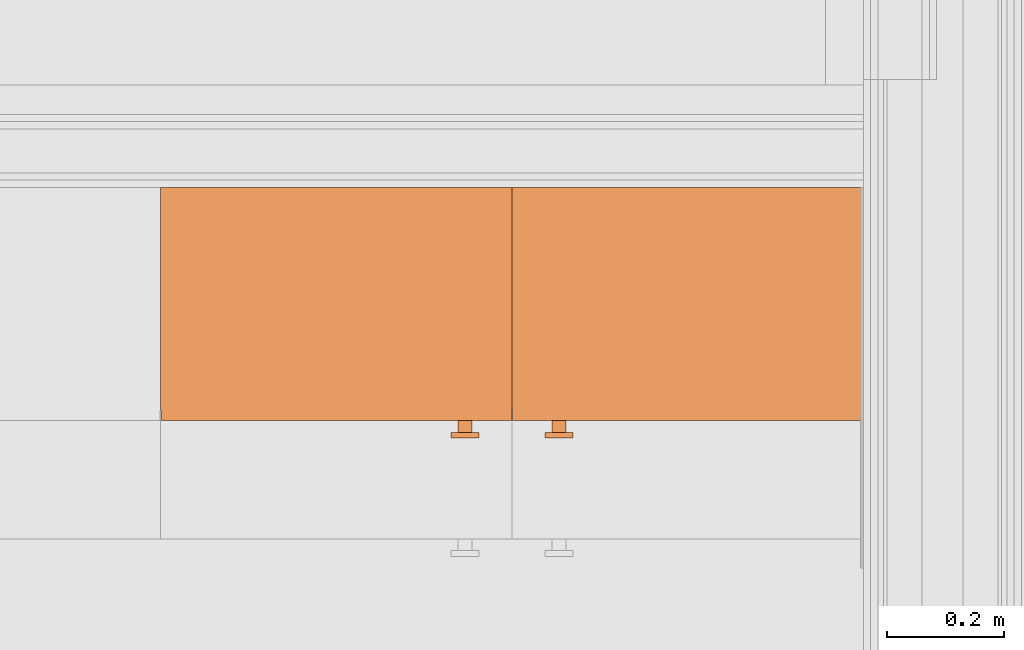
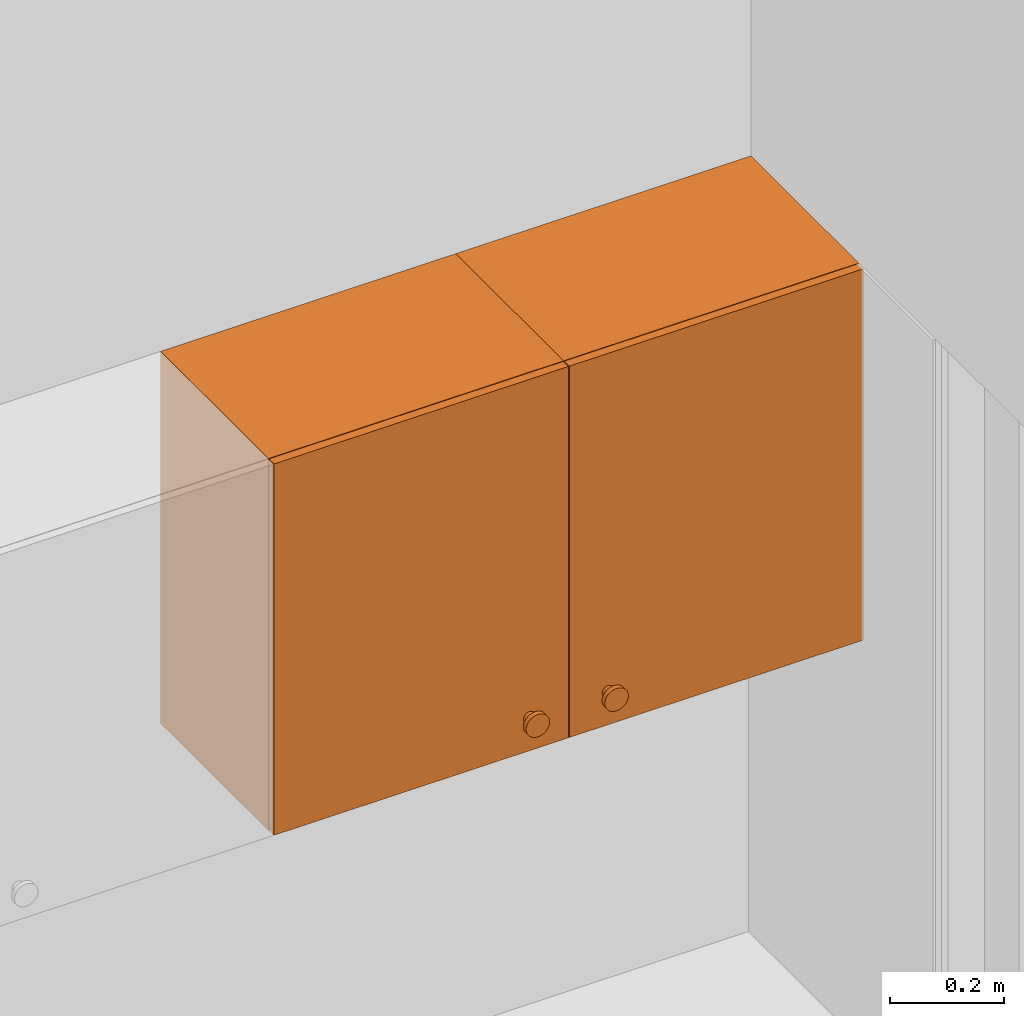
# One storey, part 133 of 165: 2 proxies.
"""IFC2X3 building model written with IfcOpenShell, lengths in millimetres."""

from ifc_helpers import new_model, entity, si_unit, converted_unit, derived_unit, money_unit, direction, frame, origin_with_axes, place, context, subcontext, project, spatial, faceted_brep, source, transform, mapped, type_object, type_shapes, element, save


model = new_model("IFC2X3")

# Units and contexts
model_context = context("Model", 3, precision=0.01, world=origin_with_axes(), true_north=direction((0.0, 1.0)))
body_context = subcontext(model_context, "Body", "Model", "MODEL_VIEW")
ifc_project = project(units=[si_unit("LENGTHUNIT", "METRE", prefix="MILLI"), si_unit("AREAUNIT", "SQUARE_METRE"), si_unit("VOLUMEUNIT", "CUBIC_METRE"), converted_unit("PLANEANGLEUNIT", "DEGREE", entity("IfcPlaneAngleMeasure", 0.0174532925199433), si_unit("PLANEANGLEUNIT", "RADIAN"), dimensions=[0, 0, 0, 0, 0, 0, 0]), money_unit("EUR"), converted_unit("TIMEUNIT", "Year", entity("IfcTimeMeasure", 31556926.0), si_unit("TIMEUNIT", "SECOND"), dimensions=[0, 0, 1, 0, 0, 0, 0]), si_unit("MASSUNIT", "GRAM", prefix="KILO"), si_unit("THERMODYNAMICTEMPERATUREUNIT", "DEGREE_CELSIUS"), si_unit("LUMINOUSINTENSITYUNIT", "LUMEN"), si_unit("ENERGYUNIT", "JOULE", prefix="MEGA"), derived_unit("THERMALCONDUCTANCEUNIT", [(si_unit("POWERUNIT", "WATT"), 1), (si_unit("LENGTHUNIT", "METRE"), -1), (si_unit("THERMODYNAMICTEMPERATUREUNIT", "KELVIN"), -1)]), derived_unit("SPECIFICHEATCAPACITYUNIT", [(si_unit("ENERGYUNIT", "JOULE"), 1), (si_unit("MASSUNIT", "GRAM", prefix="KILO"), -1), (si_unit("THERMODYNAMICTEMPERATUREUNIT", "KELVIN"), -1)]), derived_unit("MASSDENSITYUNIT", [(si_unit("MASSUNIT", "GRAM", prefix="KILO"), 1), (si_unit("VOLUMEUNIT", "CUBIC_METRE"), -1)])], contexts=[model_context])

# Site, building, storey
site_placement = place(None, origin_with_axes())
site = spatial("IfcSite", under=ifc_project, at=site_placement, Name="Site", CompositionType="ELEMENT")
building_placement = place(site_placement, origin_with_axes())
building = spatial("IfcBuilding", under=site, at=building_placement, Name="Naam gebouw", CompositionType="ELEMENT")
storey_placement = place(building_placement, origin_with_axes())
storey = spatial("IfcBuildingStorey", under=building, at=storey_placement, Name="Begane grond", CompositionType="ELEMENT", Elevation=0.0)

# Proxies
building_element_proxy_type = type_object("IfcBuildingElementProxyType", Name="Bovenkast recht 26", PredefinedType="NOTDEFINED")
shared_shape_1 = source(origin_with_axes(), body_context, "Body", "Brep", [
    faceted_brep([(18.0, -380.0, 1891.0), (582.0, -380.0, 1891.0), (582.0, -380.0, 1909.0), (18.0, -380.0, 1909.0), (18.0, -18.0, 1891.0), (582.0, -18.0, 1891.0), (582.0, -18.0, 1909.0), (18.0, -18.0, 1909.0)], [[[0, 1, 2, 3]], [[0, 4, 5, 1]], [[1, 5, 6, 2]], [[3, 2, 6, 7]], [[4, 0, 3, 7]], [[5, 4, 7, 6]]]),
    faceted_brep([(531.8176930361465, -398.0, 1570.916221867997), (531.2763114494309, -398.0, 1568.895758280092), (530.3923048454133, -398.0, 1567.0), (529.1925333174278, -398.0, 1565.286548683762), (527.7134513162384, -398.0, 1563.807466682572), (526.0, -398.0, 1562.607695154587), (524.104241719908, -398.0, 1561.723688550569), (522.0837781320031, -398.0, 1561.182306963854), (520.0, -398.0, 1561.0), (517.9162218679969, -398.0, 1561.182306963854), (515.8957582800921, -398.0, 1561.723688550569), (514.0, -398.0, 1562.607695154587), (512.2865486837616, -398.0, 1563.807466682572), (510.8074666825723, -398.0, 1565.286548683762), (509.6076951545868, -398.0, 1567.0), (508.7236885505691, -398.0, 1568.895758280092), (508.1823069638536, -398.0, 1570.916221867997), (508.0, -398.0, 1573.0), (508.1823069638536, -398.0, 1575.083778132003), (508.7236885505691, -398.0, 1577.104241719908), (509.6076951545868, -398.0, 1579.0), (510.8074666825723, -398.0, 1580.713451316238), (512.2865486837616, -398.0, 1582.192533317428), (514.0, -398.0, 1583.392304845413), (515.8957582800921, -398.0, 1584.276311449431), (517.9162218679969, -398.0, 1584.817693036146), (520.0, -398.0, 1585.0), (522.0837781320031, -398.0, 1584.817693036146), (524.104241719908, -398.0, 1584.276311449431), (526.0, -398.0, 1583.392304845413), (527.7134513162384, -398.0, 1582.192533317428), (529.1925333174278, -398.0, 1580.713451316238), (530.3923048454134, -398.0, 1579.0), (531.2763114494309, -398.0, 1577.104241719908), (531.8176930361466, -398.0, 1575.083778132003), (532.0, -398.0, 1573.0), (531.8176930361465, -418.0000000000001, 1570.916221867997), (531.2763114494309, -418.0000000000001, 1568.895758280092), (530.3923048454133, -418.0000000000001, 1567.0), (529.1925333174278, -418.0000000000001, 1565.286548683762), (527.7134513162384, -418.0000000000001, 1563.807466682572), (526.0, -418.0000000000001, 1562.607695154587), (524.104241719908, -418.0000000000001, 1561.723688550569), (522.0837781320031, -418.0000000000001, 1561.182306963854), (520.0, -418.0000000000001, 1561.0), (517.9162218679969, -418.0000000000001, 1561.182306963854), (515.8957582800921, -418.0000000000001, 1561.723688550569), (514.0, -418.0000000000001, 1562.607695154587), (512.2865486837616, -418.0000000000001, 1563.807466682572), (510.8074666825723, -418.0000000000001, 1565.286548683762), (509.6076951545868, -418.0000000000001, 1567.0), (508.7236885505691, -418.0000000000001, 1568.895758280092), (508.1823069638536, -418.0000000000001, 1570.916221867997), (508.0, -418.0000000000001, 1573.0), (508.1823069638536, -418.0000000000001, 1575.083778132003), (508.7236885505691, -418.0000000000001, 1577.104241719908), (509.6076951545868, -418.0000000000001, 1579.0), (510.8074666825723, -418.0000000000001, 1580.713451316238), (512.2865486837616, -418.0000000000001, 1582.192533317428), (514.0, -418.0000000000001, 1583.392304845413), (515.8957582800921, -418.0000000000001, 1584.276311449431), (517.9162218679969, -418.0000000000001, 1584.817693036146), (520.0, -418.0000000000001, 1585.0), (522.0837781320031, -418.0000000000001, 1584.817693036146), (524.104241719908, -418.0000000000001, 1584.276311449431), (526.0, -418.0000000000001, 1583.392304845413), (527.7134513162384, -418.0000000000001, 1582.192533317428), (529.1925333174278, -418.0000000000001, 1580.713451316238), (530.3923048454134, -418.0000000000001, 1579.0), (531.2763114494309, -418.0000000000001, 1577.104241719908), (531.8176930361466, -418.0000000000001, 1575.083778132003), (532.0, -418.0000000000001, 1573.0)], [[[0, 1, 2, 3, 4, 5, 6, 7, 8, 9, 10, 11, 12, 13, 14, 15, 16, 17, 18, 19, 20, 21, 22, 23, 24, 25, 26, 27, 28, 29, 30, 31, 32, 33, 34, 35]], [[1, 0, 36, 37]], [[2, 1, 37, 38]], [[3, 2, 38, 39]], [[4, 3, 39, 40]], [[5, 4, 40, 41]], [[6, 5, 41, 42]], [[7, 6, 42, 43]], [[8, 7, 43, 44]], [[9, 8, 44, 45]], [[10, 9, 45, 46]], [[11, 10, 46, 47]], [[12, 11, 47, 48]], [[13, 12, 48, 49]], [[14, 13, 49, 50]], [[15, 14, 50, 51]], [[16, 15, 51, 52]], [[17, 16, 52, 53]], [[18, 17, 53, 54]], [[19, 18, 54, 55]], [[20, 19, 55, 56]], [[21, 20, 56, 57]], [[22, 21, 57, 58]], [[23, 22, 58, 59]], [[24, 23, 59, 60]], [[25, 24, 60, 61]], [[26, 25, 61, 62]], [[27, 26, 62, 63]], [[28, 27, 63, 64]], [[29, 28, 64, 65]], [[30, 29, 65, 66]], [[31, 30, 66, 67]], [[32, 31, 67, 68]], [[33, 32, 68, 69]], [[34, 33, 69, 70]], [[35, 34, 70, 71]], [[0, 35, 71, 36]], [[36, 71, 70, 69, 68, 67, 66, 65, 64, 63, 62, 61, 60, 59, 58, 57, 56, 55, 54, 53, 52, 51, 50, 49, 48, 47, 46, 45, 44, 43, 42, 41, 40, 39, 38, 37]]]),
    faceted_brep([(543.635386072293, -418.0000000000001, 1568.832443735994), (542.5526228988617, -418.0000000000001, 1564.791516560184), (540.7846096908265, -418.0000000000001, 1561.0), (538.3850666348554, -418.0000000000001, 1557.573097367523), (535.426902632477, -418.0000000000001, 1554.614933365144), (532.0, -418.0000000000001, 1552.215390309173), (528.2084834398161, -418.0000000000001, 1550.447377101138), (524.1675562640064, -418.0000000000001, 1549.364613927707), (520.0, -418.0000000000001, 1549.0), (515.8324437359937, -418.0000000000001, 1549.364613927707), (511.7915165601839, -418.0000000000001, 1550.447377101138), (508.0, -418.0000000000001, 1552.215390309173), (504.5730973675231, -418.0000000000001, 1554.614933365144), (501.6149333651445, -418.0000000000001, 1557.573097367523), (499.2153903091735, -418.0000000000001, 1561.0), (497.4473771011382, -418.0000000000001, 1564.791516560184), (496.364613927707, -418.0000000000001, 1568.832443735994), (496.0000000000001, -418.0000000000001, 1573.0), (496.364613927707, -418.0000000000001, 1577.167556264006), (497.4473771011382, -418.0000000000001, 1581.208483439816), (499.2153903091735, -418.0000000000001, 1585.0), (501.6149333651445, -418.0000000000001, 1588.426902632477), (504.5730973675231, -418.0000000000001, 1591.385066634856), (508.0, -418.0000000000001, 1593.784609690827), (511.7915165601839, -418.0000000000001, 1595.552622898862), (515.8324437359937, -418.0000000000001, 1596.635386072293), (520.0, -418.0000000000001, 1597.0), (524.1675562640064, -418.0000000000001, 1596.635386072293), (528.2084834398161, -418.0000000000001, 1595.552622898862), (532.0, -418.0000000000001, 1593.784609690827), (535.426902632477, -418.0000000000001, 1591.385066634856), (538.3850666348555, -418.0000000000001, 1588.426902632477), (540.7846096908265, -418.0000000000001, 1585.0), (542.5526228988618, -418.0000000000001, 1581.208483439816), (543.635386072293, -418.0000000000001, 1577.167556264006), (544.0, -418.0000000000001, 1573.0), (543.635386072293, -428.0000000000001, 1568.832443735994), (542.5526228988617, -428.0000000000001, 1564.791516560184), (540.7846096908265, -428.0000000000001, 1561.0), (538.3850666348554, -428.0000000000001, 1557.573097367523), (535.426902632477, -428.0000000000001, 1554.614933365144), (532.0, -428.0000000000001, 1552.215390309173), (528.2084834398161, -428.0000000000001, 1550.447377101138), (524.1675562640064, -428.0000000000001, 1549.364613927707), (520.0, -428.0000000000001, 1549.0), (515.8324437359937, -428.0000000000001, 1549.364613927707), (511.7915165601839, -428.0000000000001, 1550.447377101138), (508.0, -428.0000000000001, 1552.215390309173), (504.5730973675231, -428.0000000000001, 1554.614933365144), (501.6149333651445, -428.0000000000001, 1557.573097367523), (499.2153903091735, -428.0000000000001, 1561.0), (497.4473771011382, -428.0000000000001, 1564.791516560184), (496.364613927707, -428.0000000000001, 1568.832443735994), (496.0000000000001, -428.0000000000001, 1573.0), (496.364613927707, -428.0000000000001, 1577.167556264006), (497.4473771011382, -428.0000000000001, 1581.208483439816), (499.2153903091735, -428.0000000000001, 1585.0), (501.6149333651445, -428.0000000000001, 1588.426902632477), (504.5730973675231, -428.0000000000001, 1591.385066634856), (508.0, -428.0000000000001, 1593.784609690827), (511.7915165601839, -428.0000000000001, 1595.552622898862), (515.8324437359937, -428.0000000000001, 1596.635386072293), (520.0, -428.0000000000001, 1597.0), (524.1675562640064, -428.0000000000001, 1596.635386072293), (528.2084834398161, -428.0000000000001, 1595.552622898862), (532.0, -428.0000000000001, 1593.784609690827), (535.426902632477, -428.0000000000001, 1591.385066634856), (538.3850666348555, -428.0000000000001, 1588.426902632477), (540.7846096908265, -428.0000000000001, 1585.0), (542.5526228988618, -428.0000000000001, 1581.208483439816), (543.635386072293, -428.0000000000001, 1577.167556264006), (544.0, -428.0000000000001, 1573.0)], [[[0, 1, 2, 3, 4, 5, 6, 7, 8, 9, 10, 11, 12, 13, 14, 15, 16, 17, 18, 19, 20, 21, 22, 23, 24, 25, 26, 27, 28, 29, 30, 31, 32, 33, 34, 35]], [[1, 0, 36, 37]], [[2, 1, 37, 38]], [[3, 2, 38, 39]], [[4, 3, 39, 40]], [[5, 4, 40, 41]], [[6, 5, 41, 42]], [[7, 6, 42, 43]], [[8, 7, 43, 44]], [[9, 8, 44, 45]], [[10, 9, 45, 46]], [[11, 10, 46, 47]], [[12, 11, 47, 48]], [[13, 12, 48, 49]], [[14, 13, 49, 50]], [[15, 14, 50, 51]], [[16, 15, 51, 52]], [[17, 16, 52, 53]], [[18, 17, 53, 54]], [[19, 18, 54, 55]], [[20, 19, 55, 56]], [[21, 20, 56, 57]], [[22, 21, 57, 58]], [[23, 22, 58, 59]], [[24, 23, 59, 60]], [[25, 24, 60, 61]], [[26, 25, 61, 62]], [[27, 26, 62, 63]], [[28, 27, 63, 64]], [[29, 28, 64, 65]], [[30, 29, 65, 66]], [[31, 30, 66, 67]], [[32, 31, 67, 68]], [[33, 32, 68, 69]], [[34, 33, 69, 70]], [[35, 34, 70, 71]], [[0, 35, 71, 36]], [[36, 71, 70, 69, 68, 67, 66, 65, 64, 63, 62, 61, 60, 59, 58, 57, 56, 55, 54, 53, 52, 51, 50, 49, 48, 47, 46, 45, 44, 43, 42, 41, 40, 39, 38, 37]]]),
    faceted_brep([(1.0, -380.0, 1501.0), (599.0, -380.0, 1501.0), (599.0, -398.0, 1501.0), (1.0, -398.0, 1501.0), (1.0, -379.9999999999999, 2299.0), (599.0, -379.9999999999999, 2299.0), (599.0, -397.9999999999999, 2299.0), (1.0, -397.9999999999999, 2299.0)], [[[0, 1, 2, 3]], [[0, 4, 5, 1]], [[1, 5, 6, 2]], [[3, 2, 6, 7]], [[4, 0, 3, 7]], [[5, 4, 7, 6]]]),
    faceted_brep([(18.0, -380.0, 1500.0), (582.0, -380.0, 1500.0), (582.0, -380.0, 1518.0), (18.0, -380.0, 1518.0), (18.0, 0.0, 1500.0), (582.0, 0.0, 1500.0), (582.0, 0.0, 1518.0), (18.0, 0.0, 1518.0)], [[[0, 1, 2, 3]], [[0, 4, 5, 1]], [[1, 5, 6, 2]], [[3, 2, 6, 7]], [[4, 0, 3, 7]], [[5, 4, 7, 6]]]),
    faceted_brep([(18.0, -380.0, 2282.0), (582.0, -380.0, 2282.0), (582.0, -380.0, 2300.0), (18.0, -380.0, 2300.0), (18.0, 0.0, 2282.0), (582.0, 0.0, 2282.0), (582.0, 0.0, 2300.0), (18.0, 0.0, 2300.0)], [[[0, 1, 2, 3]], [[0, 4, 5, 1]], [[1, 5, 6, 2]], [[3, 2, 6, 7]], [[4, 0, 3, 7]], [[5, 4, 7, 6]]]),
    faceted_brep([(0.0, 0.0, 1500.0), (0.0, -380.0, 1500.0), (0.0, -380.0, 2300.0), (0.0, 0.0, 2300.0), (18.0, 0.0, 1500.0), (18.0, -380.0, 1500.0), (18.0, -380.0, 2300.0), (18.0, 0.0, 2300.0)], [[[0, 1, 2, 3]], [[0, 4, 5, 1]], [[1, 5, 6, 2]], [[3, 2, 6, 7]], [[4, 0, 3, 7]], [[5, 4, 7, 6]]]),
    faceted_brep([(600.0, -380.0, 1500.0), (600.0, 0.0, 1500.0), (600.0, 0.0, 2300.0), (600.0, -380.0, 2300.0), (582.0, -380.0, 1500.0), (582.0, 0.0, 1500.0), (582.0, 0.0, 2300.0), (582.0, -380.0, 2300.0)], [[[0, 1, 2, 3]], [[0, 4, 5, 1]], [[1, 5, 6, 2]], [[3, 2, 6, 7]], [[4, 0, 3, 7]], [[5, 4, 7, 6]]]),
    faceted_brep([(582.0, -9.0, 1518.0), (18.00000000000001, -9.0, 1518.0), (18.00000000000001, -9.0, 2282.0), (582.0, -9.0, 2282.0), (582.0, -18.0, 1518.0), (18.00000000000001, -18.0, 1518.0), (18.00000000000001, -18.0, 2282.0), (582.0, -18.0, 2282.0)], [[[0, 1, 2, 3]], [[0, 4, 5, 1]], [[1, 5, 6, 2]], [[3, 2, 6, 7]], [[4, 0, 3, 7]], [[5, 4, 7, 6]]]),
])
proxy_1_placement = place(storey_placement, frame((23164.99903999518, 13104.99770206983, 300.0000000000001), z_axis=(0.0, 0.0, 1.0), x_axis=(1.0, 0.0, 0.0)))
element("IfcBuildingElementProxy", 1, at=proxy_1_placement, inside=storey, type_object=building_element_proxy_type, Name="_Leeg", context=body_context, shape_type="MappedRepresentation", body=[
    mapped(shared_shape_1, transform((0.0, 0.0, 0.0))),
])
shared_shape_2 = source(origin_with_axes(), body_context, "Body", "Brep", [
    faceted_brep([(-18.0, -380.0, 1891.0), (-18.0, -380.0, 1909.0), (-582.0, -380.0, 1909.0), (-582.0, -380.0, 1891.0), (-18.0, -18.0, 1891.0), (-18.0, -18.0, 1909.0), (-582.0, -18.0, 1909.0), (-582.0, -18.0, 1891.0)], [[[0, 1, 2, 3]], [[4, 5, 1, 0]], [[1, 5, 6, 2]], [[3, 2, 6, 7]], [[0, 3, 7, 4]], [[7, 6, 5, 4]]]),
    faceted_brep([(-531.8176930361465, -398.0, 1570.916221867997), (-532.0, -398.0, 1573.0), (-531.8176930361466, -398.0, 1575.083778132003), (-531.2763114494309, -398.0, 1577.104241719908), (-530.3923048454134, -398.0, 1579.0), (-529.1925333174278, -398.0, 1580.713451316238), (-527.7134513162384, -398.0, 1582.192533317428), (-526.0, -398.0, 1583.392304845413), (-524.104241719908, -398.0, 1584.276311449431), (-522.0837781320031, -398.0, 1584.817693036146), (-520.0, -398.0, 1585.0), (-517.9162218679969, -398.0, 1584.817693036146), (-515.8957582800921, -398.0, 1584.276311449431), (-514.0, -398.0, 1583.392304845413), (-512.2865486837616, -398.0, 1582.192533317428), (-510.8074666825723, -398.0, 1580.713451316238), (-509.6076951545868, -398.0, 1579.0), (-508.7236885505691, -398.0, 1577.104241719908), (-508.1823069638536, -398.0, 1575.083778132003), (-508.0, -398.0, 1573.0), (-508.1823069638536, -398.0, 1570.916221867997), (-508.7236885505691, -398.0, 1568.895758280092), (-509.6076951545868, -398.0, 1567.0), (-510.8074666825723, -398.0, 1565.286548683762), (-512.2865486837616, -398.0, 1563.807466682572), (-514.0, -398.0, 1562.607695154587), (-515.8957582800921, -398.0, 1561.723688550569), (-517.9162218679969, -398.0, 1561.182306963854), (-520.0, -398.0, 1561.0), (-522.0837781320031, -398.0, 1561.182306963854), (-524.104241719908, -398.0, 1561.723688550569), (-526.0, -398.0, 1562.607695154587), (-527.7134513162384, -398.0, 1563.807466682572), (-529.1925333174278, -398.0, 1565.286548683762), (-530.3923048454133, -398.0, 1567.0), (-531.2763114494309, -398.0, 1568.895758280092), (-531.8176930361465, -418.0000000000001, 1570.916221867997), (-532.0, -418.0000000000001, 1573.0), (-531.8176930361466, -418.0000000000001, 1575.083778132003), (-531.2763114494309, -418.0000000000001, 1577.104241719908), (-530.3923048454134, -418.0000000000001, 1579.0), (-529.1925333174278, -418.0000000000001, 1580.713451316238), (-527.7134513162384, -418.0000000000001, 1582.192533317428), (-526.0, -418.0000000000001, 1583.392304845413), (-524.104241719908, -418.0000000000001, 1584.276311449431), (-522.0837781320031, -418.0000000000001, 1584.817693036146), (-520.0, -418.0000000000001, 1585.0), (-517.9162218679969, -418.0000000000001, 1584.817693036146), (-515.8957582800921, -418.0000000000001, 1584.276311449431), (-514.0, -418.0000000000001, 1583.392304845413), (-512.2865486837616, -418.0000000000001, 1582.192533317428), (-510.8074666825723, -418.0000000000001, 1580.713451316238), (-509.6076951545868, -418.0000000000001, 1579.0), (-508.7236885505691, -418.0000000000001, 1577.104241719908), (-508.1823069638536, -418.0000000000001, 1575.083778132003), (-508.0, -418.0000000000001, 1573.0), (-508.1823069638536, -418.0000000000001, 1570.916221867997), (-508.7236885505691, -418.0000000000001, 1568.895758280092), (-509.6076951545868, -418.0000000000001, 1567.0), (-510.8074666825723, -418.0000000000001, 1565.286548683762), (-512.2865486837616, -418.0000000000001, 1563.807466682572), (-514.0, -418.0000000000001, 1562.607695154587), (-515.8957582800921, -418.0000000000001, 1561.723688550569), (-517.9162218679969, -418.0000000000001, 1561.182306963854), (-520.0, -418.0000000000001, 1561.0), (-522.0837781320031, -418.0000000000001, 1561.182306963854), (-524.104241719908, -418.0000000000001, 1561.723688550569), (-526.0, -418.0000000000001, 1562.607695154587), (-527.7134513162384, -418.0000000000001, 1563.807466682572), (-529.1925333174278, -418.0000000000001, 1565.286548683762), (-530.3923048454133, -418.0000000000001, 1567.0), (-531.2763114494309, -418.0000000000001, 1568.895758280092)], [[[0, 1, 2, 3, 4, 5, 6, 7, 8, 9, 10, 11, 12, 13, 14, 15, 16, 17, 18, 19, 20, 21, 22, 23, 24, 25, 26, 27, 28, 29, 30, 31, 32, 33, 34, 35]], [[0, 36, 37, 1]], [[1, 37, 38, 2]], [[2, 38, 39, 3]], [[3, 39, 40, 4]], [[4, 40, 41, 5]], [[5, 41, 42, 6]], [[6, 42, 43, 7]], [[7, 43, 44, 8]], [[8, 44, 45, 9]], [[9, 45, 46, 10]], [[10, 46, 47, 11]], [[11, 47, 48, 12]], [[12, 48, 49, 13]], [[13, 49, 50, 14]], [[14, 50, 51, 15]], [[15, 51, 52, 16]], [[16, 52, 53, 17]], [[17, 53, 54, 18]], [[18, 54, 55, 19]], [[19, 55, 56, 20]], [[20, 56, 57, 21]], [[21, 57, 58, 22]], [[22, 58, 59, 23]], [[23, 59, 60, 24]], [[24, 60, 61, 25]], [[25, 61, 62, 26]], [[26, 62, 63, 27]], [[27, 63, 64, 28]], [[28, 64, 65, 29]], [[29, 65, 66, 30]], [[30, 66, 67, 31]], [[31, 67, 68, 32]], [[32, 68, 69, 33]], [[33, 69, 70, 34]], [[34, 70, 71, 35]], [[35, 71, 36, 0]], [[36, 71, 70, 69, 68, 67, 66, 65, 64, 63, 62, 61, 60, 59, 58, 57, 56, 55, 54, 53, 52, 51, 50, 49, 48, 47, 46, 45, 44, 43, 42, 41, 40, 39, 38, 37]]]),
    faceted_brep([(-543.635386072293, -418.0000000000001, 1568.832443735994), (-544.0, -418.0000000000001, 1573.0), (-543.635386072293, -418.0000000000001, 1577.167556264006), (-542.5526228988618, -418.0000000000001, 1581.208483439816), (-540.7846096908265, -418.0000000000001, 1585.0), (-538.3850666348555, -418.0000000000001, 1588.426902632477), (-535.426902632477, -418.0000000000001, 1591.385066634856), (-532.0, -418.0000000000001, 1593.784609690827), (-528.2084834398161, -418.0000000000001, 1595.552622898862), (-524.1675562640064, -418.0000000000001, 1596.635386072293), (-520.0, -418.0000000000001, 1597.0), (-515.8324437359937, -418.0000000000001, 1596.635386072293), (-511.7915165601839, -418.0000000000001, 1595.552622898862), (-508.0, -418.0000000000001, 1593.784609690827), (-504.5730973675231, -418.0000000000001, 1591.385066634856), (-501.6149333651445, -418.0000000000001, 1588.426902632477), (-499.2153903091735, -418.0000000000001, 1585.0), (-497.4473771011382, -418.0000000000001, 1581.208483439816), (-496.364613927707, -418.0000000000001, 1577.167556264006), (-496.0000000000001, -418.0000000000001, 1573.0), (-496.364613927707, -418.0000000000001, 1568.832443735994), (-497.4473771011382, -418.0000000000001, 1564.791516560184), (-499.2153903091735, -418.0000000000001, 1561.0), (-501.6149333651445, -418.0000000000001, 1557.573097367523), (-504.5730973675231, -418.0000000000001, 1554.614933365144), (-508.0, -418.0000000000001, 1552.215390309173), (-511.7915165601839, -418.0000000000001, 1550.447377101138), (-515.8324437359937, -418.0000000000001, 1549.364613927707), (-520.0, -418.0000000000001, 1549.0), (-524.1675562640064, -418.0000000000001, 1549.364613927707), (-528.2084834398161, -418.0000000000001, 1550.447377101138), (-532.0, -418.0000000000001, 1552.215390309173), (-535.426902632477, -418.0000000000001, 1554.614933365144), (-538.3850666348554, -418.0000000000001, 1557.573097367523), (-540.7846096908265, -418.0000000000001, 1561.0), (-542.5526228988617, -418.0000000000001, 1564.791516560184), (-543.635386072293, -428.0000000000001, 1568.832443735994), (-544.0, -428.0000000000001, 1573.0), (-543.635386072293, -428.0000000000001, 1577.167556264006), (-542.5526228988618, -428.0000000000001, 1581.208483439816), (-540.7846096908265, -428.0000000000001, 1585.0), (-538.3850666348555, -428.0000000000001, 1588.426902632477), (-535.426902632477, -428.0000000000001, 1591.385066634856), (-532.0, -428.0000000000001, 1593.784609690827), (-528.2084834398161, -428.0000000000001, 1595.552622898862), (-524.1675562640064, -428.0000000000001, 1596.635386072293), (-520.0, -428.0000000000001, 1597.0), (-515.8324437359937, -428.0000000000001, 1596.635386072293), (-511.7915165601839, -428.0000000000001, 1595.552622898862), (-508.0, -428.0000000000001, 1593.784609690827), (-504.5730973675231, -428.0000000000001, 1591.385066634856), (-501.6149333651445, -428.0000000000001, 1588.426902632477), (-499.2153903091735, -428.0000000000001, 1585.0), (-497.4473771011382, -428.0000000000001, 1581.208483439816), (-496.364613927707, -428.0000000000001, 1577.167556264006), (-496.0000000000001, -428.0000000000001, 1573.0), (-496.364613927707, -428.0000000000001, 1568.832443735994), (-497.4473771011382, -428.0000000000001, 1564.791516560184), (-499.2153903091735, -428.0000000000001, 1561.0), (-501.6149333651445, -428.0000000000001, 1557.573097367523), (-504.5730973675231, -428.0000000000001, 1554.614933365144), (-508.0, -428.0000000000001, 1552.215390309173), (-511.7915165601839, -428.0000000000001, 1550.447377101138), (-515.8324437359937, -428.0000000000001, 1549.364613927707), (-520.0, -428.0000000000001, 1549.0), (-524.1675562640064, -428.0000000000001, 1549.364613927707), (-528.2084834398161, -428.0000000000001, 1550.447377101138), (-532.0, -428.0000000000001, 1552.215390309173), (-535.426902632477, -428.0000000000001, 1554.614933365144), (-538.3850666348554, -428.0000000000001, 1557.573097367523), (-540.7846096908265, -428.0000000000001, 1561.0), (-542.5526228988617, -428.0000000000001, 1564.791516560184)], [[[0, 1, 2, 3, 4, 5, 6, 7, 8, 9, 10, 11, 12, 13, 14, 15, 16, 17, 18, 19, 20, 21, 22, 23, 24, 25, 26, 27, 28, 29, 30, 31, 32, 33, 34, 35]], [[0, 36, 37, 1]], [[1, 37, 38, 2]], [[2, 38, 39, 3]], [[3, 39, 40, 4]], [[4, 40, 41, 5]], [[5, 41, 42, 6]], [[6, 42, 43, 7]], [[7, 43, 44, 8]], [[8, 44, 45, 9]], [[9, 45, 46, 10]], [[10, 46, 47, 11]], [[11, 47, 48, 12]], [[12, 48, 49, 13]], [[13, 49, 50, 14]], [[14, 50, 51, 15]], [[15, 51, 52, 16]], [[16, 52, 53, 17]], [[17, 53, 54, 18]], [[18, 54, 55, 19]], [[19, 55, 56, 20]], [[20, 56, 57, 21]], [[21, 57, 58, 22]], [[22, 58, 59, 23]], [[23, 59, 60, 24]], [[24, 60, 61, 25]], [[25, 61, 62, 26]], [[26, 62, 63, 27]], [[27, 63, 64, 28]], [[28, 64, 65, 29]], [[29, 65, 66, 30]], [[30, 66, 67, 31]], [[31, 67, 68, 32]], [[32, 68, 69, 33]], [[33, 69, 70, 34]], [[34, 70, 71, 35]], [[35, 71, 36, 0]], [[36, 71, 70, 69, 68, 67, 66, 65, 64, 63, 62, 61, 60, 59, 58, 57, 56, 55, 54, 53, 52, 51, 50, 49, 48, 47, 46, 45, 44, 43, 42, 41, 40, 39, 38, 37]]]),
    faceted_brep([(-1.0, -380.0, 1501.0), (-1.0, -398.0, 1501.0), (-599.0, -398.0, 1501.0), (-599.0, -380.0, 1501.0), (-1.0, -379.9999999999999, 2299.0), (-1.0, -397.9999999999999, 2299.0), (-599.0, -397.9999999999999, 2299.0), (-599.0, -379.9999999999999, 2299.0)], [[[0, 1, 2, 3]], [[4, 5, 1, 0]], [[1, 5, 6, 2]], [[3, 2, 6, 7]], [[0, 3, 7, 4]], [[7, 6, 5, 4]]]),
    faceted_brep([(-18.0, -380.0, 1500.0), (-18.0, -380.0, 1518.0), (-582.0, -380.0, 1518.0), (-582.0, -380.0, 1500.0), (-18.0, 0.0, 1500.0), (-18.0, 0.0, 1518.0), (-582.0, 0.0, 1518.0), (-582.0, 0.0, 1500.0)], [[[0, 1, 2, 3]], [[4, 5, 1, 0]], [[1, 5, 6, 2]], [[3, 2, 6, 7]], [[0, 3, 7, 4]], [[7, 6, 5, 4]]]),
    faceted_brep([(-18.0, -380.0, 2282.0), (-18.0, -380.0, 2300.0), (-582.0, -380.0, 2300.0), (-582.0, -380.0, 2282.0), (-18.0, 0.0, 2282.0), (-18.0, 0.0, 2300.0), (-582.0, 0.0, 2300.0), (-582.0, 0.0, 2282.0)], [[[0, 1, 2, 3]], [[4, 5, 1, 0]], [[1, 5, 6, 2]], [[3, 2, 6, 7]], [[0, 3, 7, 4]], [[7, 6, 5, 4]]]),
    faceted_brep([(0.0, 0.0, 1500.0), (0.0, 0.0, 2300.0), (0.0, -380.0, 2300.0), (0.0, -380.0, 1500.0), (-18.0, 0.0, 1500.0), (-18.0, 0.0, 2300.0), (-18.0, -380.0, 2300.0), (-18.0, -380.0, 1500.0)], [[[0, 1, 2, 3]], [[4, 5, 1, 0]], [[1, 5, 6, 2]], [[3, 2, 6, 7]], [[0, 3, 7, 4]], [[7, 6, 5, 4]]]),
    faceted_brep([(-600.0, -380.0, 1500.0), (-600.0, -380.0, 2300.0), (-600.0, 0.0, 2300.0), (-600.0, 0.0, 1500.0), (-582.0, -380.0, 1500.0), (-582.0, -380.0, 2300.0), (-582.0, 0.0, 2300.0), (-582.0, 0.0, 1500.0)], [[[0, 1, 2, 3]], [[4, 5, 1, 0]], [[1, 5, 6, 2]], [[3, 2, 6, 7]], [[0, 3, 7, 4]], [[7, 6, 5, 4]]]),
    faceted_brep([(-582.0, -9.0, 1518.0), (-582.0, -9.0, 2282.0), (-18.00000000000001, -9.0, 2282.0), (-18.00000000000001, -9.0, 1518.0), (-582.0, -18.0, 1518.0), (-582.0, -18.0, 2282.0), (-18.00000000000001, -18.0, 2282.0), (-18.00000000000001, -18.0, 1518.0)], [[[0, 1, 2, 3]], [[4, 5, 1, 0]], [[1, 5, 6, 2]], [[3, 2, 6, 7]], [[0, 3, 7, 4]], [[7, 6, 5, 4]]]),
])
type_shapes(building_element_proxy_type, [shared_shape_1, shared_shape_2])
proxy_2_placement = place(storey_placement, frame((24364.99903999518, 13104.99770206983, 300.0000000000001), z_axis=(0.0, 0.0, 1.0), x_axis=(1.0, 0.0, 0.0)))
element("IfcBuildingElementProxy", 2, at=proxy_2_placement, inside=storey, type_object=building_element_proxy_type, Name="_Leeg", context=body_context, shape_type="MappedRepresentation", body=[
    mapped(shared_shape_2, transform((0.0, 0.0, 0.0))),
])

save(model, "model.ifc")
